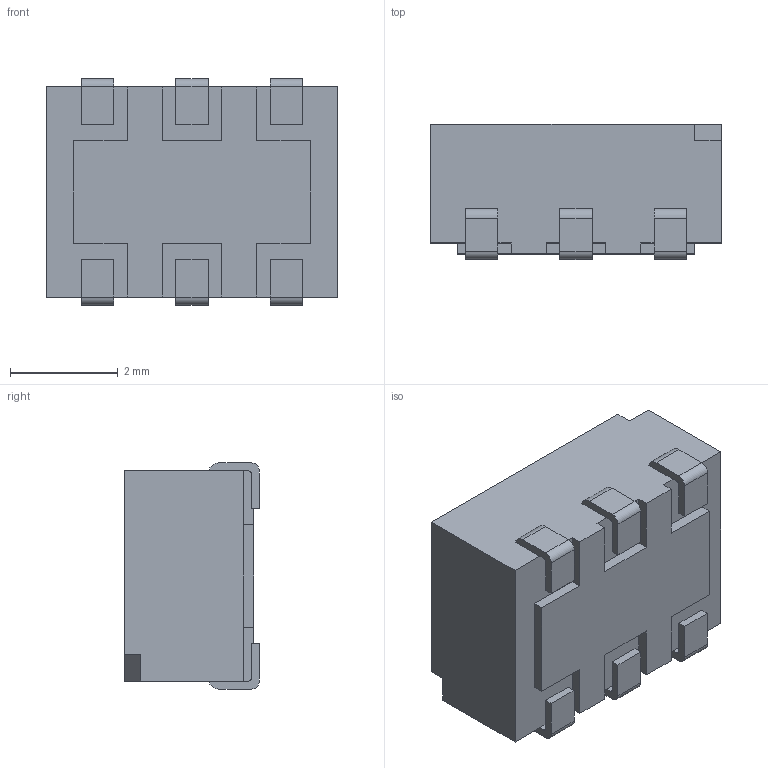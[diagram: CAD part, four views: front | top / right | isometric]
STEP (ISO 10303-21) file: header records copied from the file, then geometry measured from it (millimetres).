
FILE_DESCRIPTION (( 'STEP AP214' ), '1' );
FILE_NAME ('CAS-220TA1.STEP', '2024-04-25T08:25:19', ( '' ), ( '' ), 'SwSTEP 2.0', 'SolidWorks 2024', '' );
FILE_SCHEMA (( 'AUTOMOTIVE_DESIGN' ));
Length unit declared in the file: millimetre
Products named in the file (3): 2 pole_s; CAS_c_22A; CAS-220TA1
Assembly tree (2 placements, depth 2):
  CAS-220TA1
    CAS_c_22A
    2 pole_s
Bounding box: 5.4 x 2.5 x 4.2 mm (x, y, z)
Volume: 48.2 mm3; surface area: 104 mm2
Topology: 2 solids, 2 shells, 116 faces, 314 edges, 204 vertices
Faces by surface type: plane 88, cylinder 28
Entity records: 4156 total; most frequent: CARTESIAN_POINT 675, ORIENTED_EDGE 628, DIRECTION 588, EDGE_CURVE 314, VECTOR 258, LINE 258, VERTEX_POINT 204, AXIS2_PLACEMENT_3D 165
